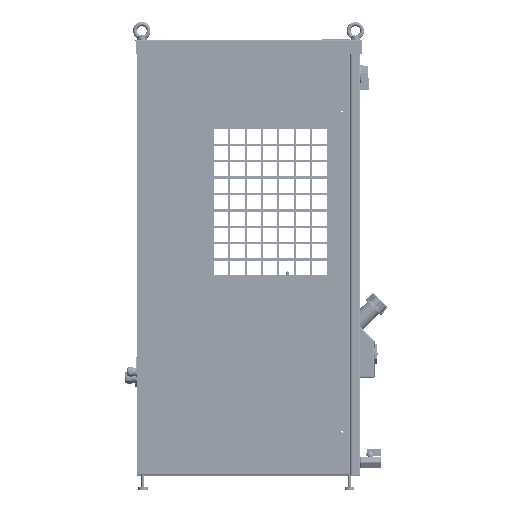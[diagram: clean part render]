
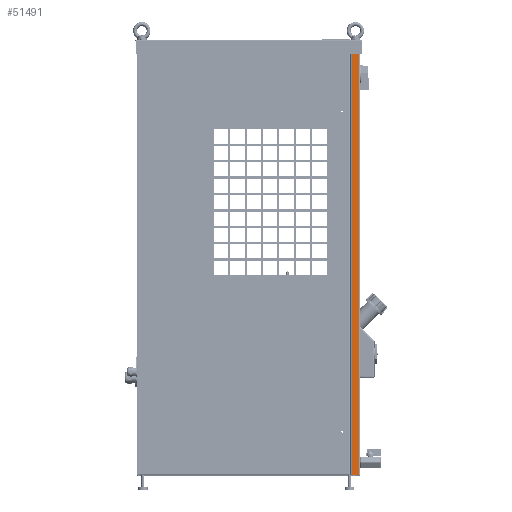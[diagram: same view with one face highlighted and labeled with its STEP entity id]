
A CAD part, top view. The second image highlights one B-rep face of the part: STEP entity #51491.
In plain terms, the highlighted planar face has unit normal (0, 0, 1).
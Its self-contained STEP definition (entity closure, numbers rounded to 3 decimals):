
#1773 = EDGE_CURVE ( 'NONE', #202498, #81926, #81633, .T. ) ;
#5948 = LINE ( 'NONE', #191906, #191827 ) ;
#6299 = ORIENTED_EDGE ( 'NONE', *, *, #77763, .T. ) ;
#9751 = DIRECTION ( 'NONE',  ( -1., 0., 0. ) ) ;
#28691 = CARTESIAN_POINT ( 'NONE',  ( 0., 0., 0. ) ) ;
#33764 = LINE ( 'NONE', #165270, #165918 ) ;
#35664 = LINE ( 'NONE', #180006, #121947 ) ;
#44662 = DIRECTION ( 'NONE',  ( 0., 1., 0. ) ) ;
#46091 = DIRECTION ( 'NONE',  ( 0., 0., 1. ) ) ;
#51491 = ADVANCED_FACE ( 'NONE', ( #135775 ), #149404, .T. ) ;
#59179 = ORIENTED_EDGE ( 'NONE', *, *, #214923, .T. ) ;
#77763 = EDGE_CURVE ( 'NONE', #81926, #217121, #5948, .T. ) ;
#81633 = LINE ( 'NONE', #128607, #173386 ) ;
#81926 = VERTEX_POINT ( 'NONE', #213122 ) ;
#88456 = DIRECTION ( 'NONE',  ( 0., -1., 0. ) ) ;
#94219 = ORIENTED_EDGE ( 'NONE', *, *, #188317, .T. ) ;
#121947 = VECTOR ( 'NONE', #197345, 1000. ) ;
#125647 = CARTESIAN_POINT ( 'NONE',  ( 7.6, 449.9, 0. ) ) ;
#128607 = CARTESIAN_POINT ( 'NONE',  ( 7.6, 449.9, 0. ) ) ;
#135775 = FACE_OUTER_BOUND ( 'NONE', #188485, .T. ) ;
#149404 = PLANE ( 'NONE',  #154519 ) ;
#154519 = AXIS2_PLACEMENT_3D ( 'NONE', #28691, #46091, #166661 ) ;
#160112 = CARTESIAN_POINT ( 'NONE',  ( 7.6, -448.8, 0. ) ) ;
#160405 = CARTESIAN_POINT ( 'NONE',  ( -7.6, -448.8, 0. ) ) ;
#160624 = ORIENTED_EDGE ( 'NONE', *, *, #1773, .T. ) ;
#165270 = CARTESIAN_POINT ( 'NONE',  ( 7.6, -448.8, 0. ) ) ;
#165918 = VECTOR ( 'NONE', #44662, 1000. ) ;
#166661 = DIRECTION ( 'NONE',  ( 1., 0., 0. ) ) ;
#167654 = VERTEX_POINT ( 'NONE', #160112 ) ;
#173386 = VECTOR ( 'NONE', #9751, 1000. ) ;
#180006 = CARTESIAN_POINT ( 'NONE',  ( 7.6, -448.8, 0. ) ) ;
#188317 = EDGE_CURVE ( 'NONE', #167654, #202498, #33764, .T. ) ;
#188485 = EDGE_LOOP ( 'NONE', ( #6299, #59179, #94219, #160624 ) ) ;
#191827 = VECTOR ( 'NONE', #88456, 1000. ) ;
#191906 = CARTESIAN_POINT ( 'NONE',  ( -7.6, -448.8, 0. ) ) ;
#197345 = DIRECTION ( 'NONE',  ( 1., 0., 0. ) ) ;
#202498 = VERTEX_POINT ( 'NONE', #125647 ) ;
#213122 = CARTESIAN_POINT ( 'NONE',  ( -7.6, 449.9, 0. ) ) ;
#214923 = EDGE_CURVE ( 'NONE', #217121, #167654, #35664, .T. ) ;
#217121 = VERTEX_POINT ( 'NONE', #160405 ) ;
